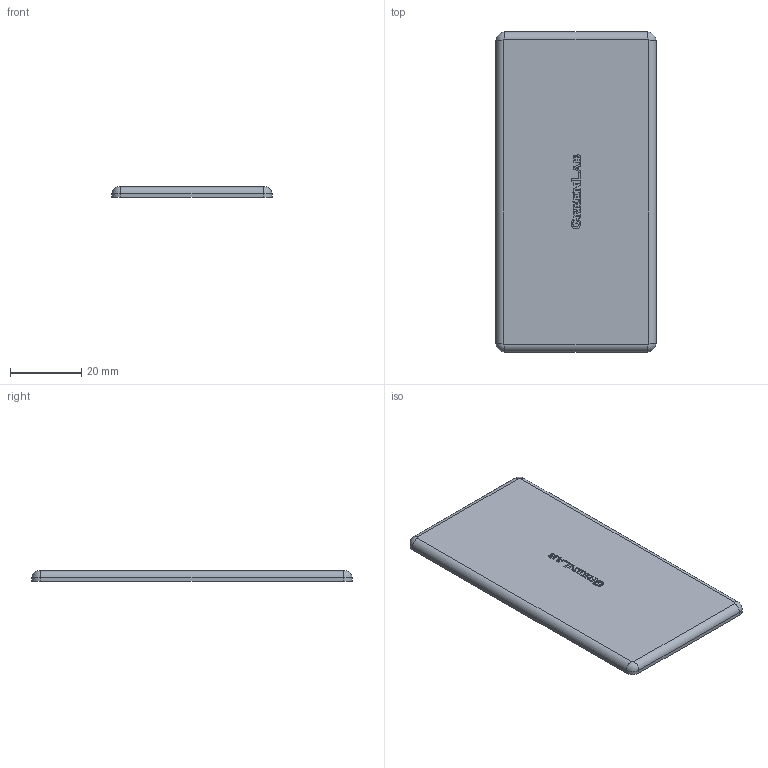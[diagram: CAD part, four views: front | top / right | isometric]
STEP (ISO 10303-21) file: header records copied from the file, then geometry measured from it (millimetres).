
FILE_DESCRIPTION (( 'STEP AP214' ), '1' );
FILE_NAME ('1.1061 Päätysuoja 45X90 musta.STEP', '2025-09-03T09:00:18', ( '' ), ( '' ), 'SwSTEP 2.0', 'SolidWorks 2025', '' );
FILE_SCHEMA (( 'AUTOMOTIVE_DESIGN' ));
Length unit declared in the file: millimetre
Products named in the file (1): 1.1061 Päätysuoja 45X90 musta
Bounding box: 45 x 90 x 3 mm (x, y, z)
Volume: 11897.5 mm3; surface area: 8710.3 mm2
Topology: 1 solids, 1 shells, 240 faces, 670 edges, 444 vertices
Faces by surface type: plane 143, bspline 85, cylinder 8, torus 4
Entity records: 10295 total; most frequent: CARTESIAN_POINT 4672, ORIENTED_EDGE 1340, DIRECTION 832, EDGE_CURVE 670, LINE 480, VECTOR 480, VERTEX_POINT 444, EDGE_LOOP 252
